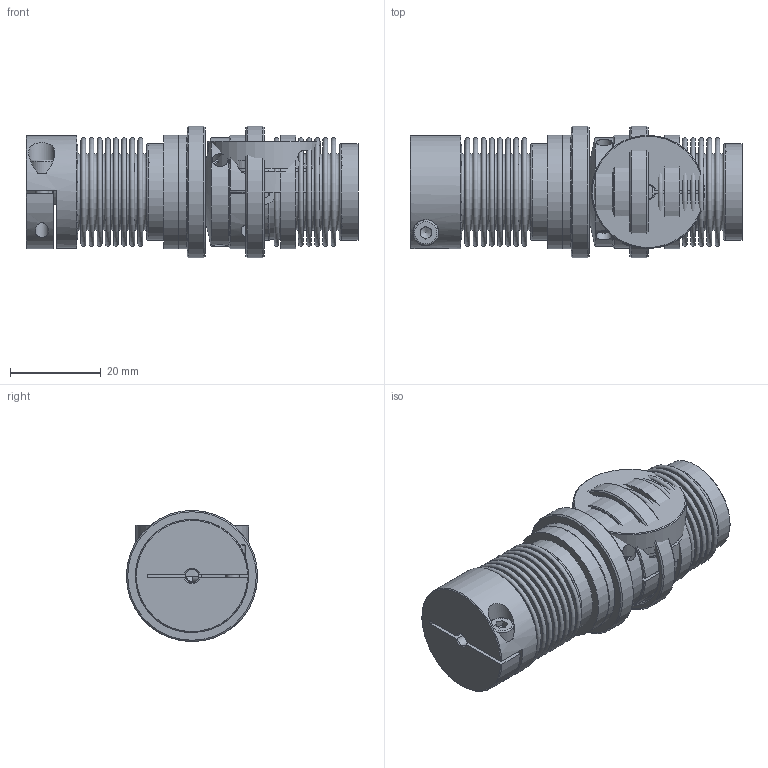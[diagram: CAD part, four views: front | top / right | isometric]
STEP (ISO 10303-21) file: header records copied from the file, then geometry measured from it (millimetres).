
FILE_DESCRIPTION( ( 'Unknown' ), '1' );
FILE_NAME( 'C:/Dokumente und Einstellungen/SKarpstein/Desktop/Korrigierte 3D Modelle/KBK-BKK-2-52.stp', 'Unknown', ( 'Unknown' ), ( 'Unknown' ), 'XStep 1.0', 'Unknown', ' ' );
FILE_SCHEMA( ( 'automotive_design' ) );
Length unit declared in the file: millimetre
Products named in the file (10): Assem1; Grundkörper L-K-2; Klemmnabe 2; Stellring 2; Druckring 2; Zylinderschraube DIN 912_0; Flansch BK2; KN20_Standard_5; Socket Head Cap Screw_DIN_DIN 912 M3 x 10 --- 10N_3; BM20_Standard_0
Bounding box: 73.37 x 29 x 29 mm (x, y, z)
Volume: 31877.6 mm3; surface area: 43183.6 mm2
Topology: 18 solids, 18 shells, 422 faces, 842 edges, 550 vertices
Faces by surface type: plane 194, cylinder 92, torus 82, cone 54
Full cylindrical faces by diameter (mm): 2.013 x6, 2.459 x2, 3 x10, 3.2 x4, 3.5 x6, 5.5 x4, 9.6 x2, 10 x4, 12 x2, 13 x6, 17 x2, 19 x2, 21 x6, 21.3 x4, 24 x2, 25 x6, 26 x2, 29 x2
Entity records: 5590 total; most frequent: CARTESIAN_POINT 1294, DIRECTION 899, ORIENTED_EDGE 598, AXIS2_PLACEMENT_3D 411, EDGE_LOOP 382, EDGE_CURVE 299, FACE_OUTER_BOUND 287, VERTEX_POINT 252
